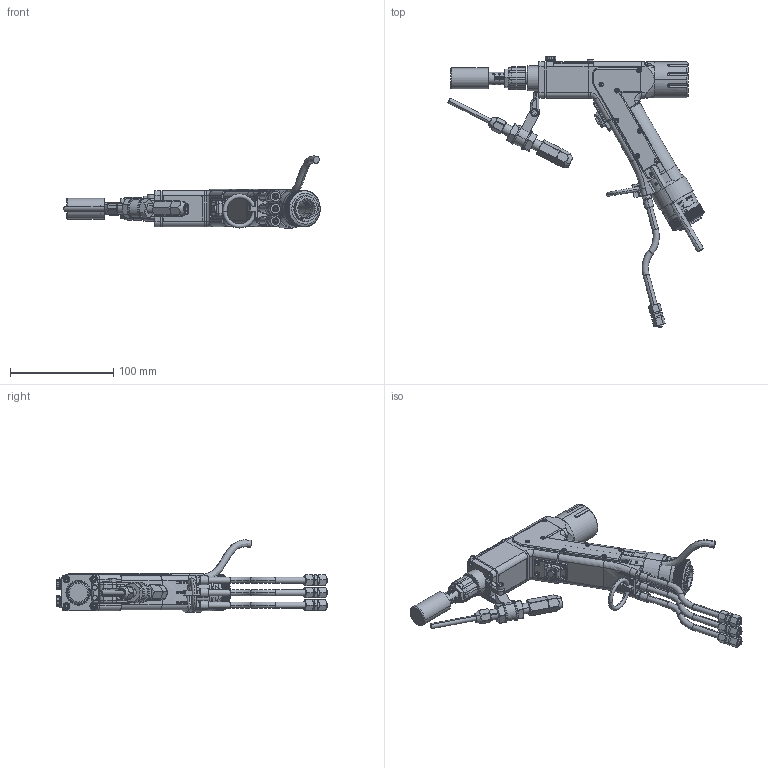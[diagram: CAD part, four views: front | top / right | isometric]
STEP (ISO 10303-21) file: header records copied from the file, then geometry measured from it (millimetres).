
FILE_DESCRIPTION (( 'STEP AP203' ), '1' );
FILE_NAME ('BW101M2G1AE BW101单振镜手持焊接头.STEP', '2023-07-27T02:22:08', ( '' ), ( '' ), 'SwSTEP 2.0', 'SolidWorks 2016', '' );
FILE_SCHEMA (( 'CONFIG_CONTROL_DESIGN' ));
Products named in the file (1): BW101M2G1AE  BW101单振镜手持焊接头
Bounding box: 247.96 x 262.88 x 69.9 mm (x, y, z)
Surface area: 91824.9 mm2 (no closed solid volume)
Topology: 0 solids, 106 shells, 2684 faces, 16993 edges, 13557 vertices
Faces by surface type: cylinder 1182, bspline 661, plane 492, cone 256, torus 87, sphere 6
Entity records: 196335 total; most frequent: CARTESIAN_POINT 97238, ORIENTED_EDGE 22843, EDGE_CURVE 16990, VERTEX_POINT 13557, B_SPLINE_CURVE_WITH_KNOTS 12512, DIRECTION 10728, AXIS2_PLACEMENT_3D 4278, EDGE_LOOP 3023
